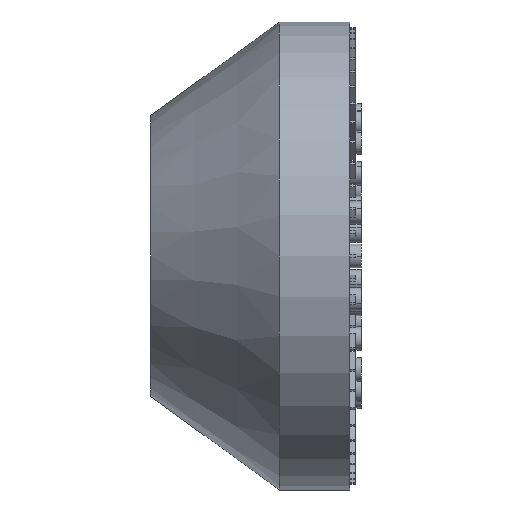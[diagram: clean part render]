
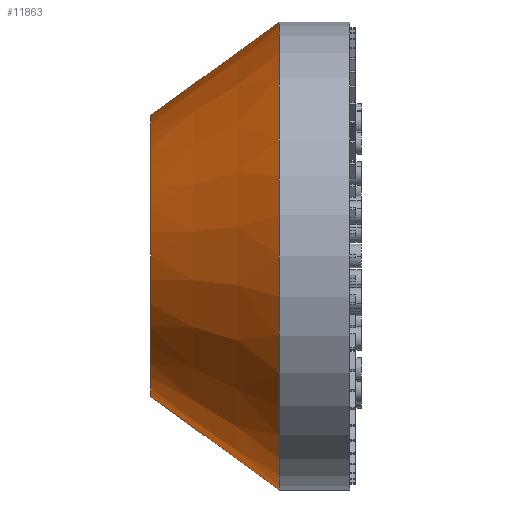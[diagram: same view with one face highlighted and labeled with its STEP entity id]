
A CAD part, left-side view. The second image highlights one B-rep face of the part: STEP entity #11863.
In plain terms, the highlighted conical face has half-angle 36.027 degrees and reference radius 12 mm.
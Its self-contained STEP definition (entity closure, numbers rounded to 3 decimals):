
#194 = VERTEX_POINT ( 'NONE', #11514 ) ;
#365 = AXIS2_PLACEMENT_3D ( 'NONE', #741, #8148, #9081 ) ;
#485 = AXIS2_PLACEMENT_3D ( 'NONE', #9560, #4016, #10503 ) ;
#542 = EDGE_CURVE ( 'NONE', #6759, #194, #4906, .T. ) ;
#741 = CARTESIAN_POINT ( 'NONE',  ( 0., 17., 0. ) ) ;
#945 = AXIS2_PLACEMENT_3D ( 'NONE', #9365, #3816, #10296 ) ;
#985 = EDGE_CURVE ( 'NONE', #6759, #2001, #6863, .T. ) ;
#997 = EDGE_LOOP ( 'NONE', ( #2366, #7316, #5328, #2550 ) ) ;
#1747 = VECTOR ( 'NONE', #3210, 1000. ) ;
#1958 = VECTOR ( 'NONE', #3925, 1000. ) ;
#2001 = VERTEX_POINT ( 'NONE', #9477 ) ;
#2366 = ORIENTED_EDGE ( 'NONE', *, *, #11658, .F. ) ;
#2550 = ORIENTED_EDGE ( 'NONE', *, *, #3116, .F. ) ;
#3116 = EDGE_CURVE ( 'NONE', #11316, #2001, #6798, .T. ) ;
#3210 = DIRECTION ( 'NONE',  ( 0., -0.809, 0.588 ) ) ;
#3586 = CARTESIAN_POINT ( 'NONE',  ( 0., 6., 20. ) ) ;
#3816 = DIRECTION ( 'NONE',  ( 0., 1., 0. ) ) ;
#3900 = LINE ( 'NONE', #8765, #1747 ) ;
#3925 = DIRECTION ( 'NONE',  ( 0., -0.809, -0.588 ) ) ;
#4016 = DIRECTION ( 'NONE',  ( 0., -1., 0. ) ) ;
#4037 = FACE_OUTER_BOUND ( 'NONE', #997, .T. ) ;
#4803 = CARTESIAN_POINT ( 'NONE',  ( 0., 17., -12. ) ) ;
#4906 = CIRCLE ( 'NONE', #945, 12. ) ;
#5328 = ORIENTED_EDGE ( 'NONE', *, *, #985, .T. ) ;
#5917 = CONICAL_SURFACE ( 'NONE', #365, 12., 0.629 ) ;
#6759 = VERTEX_POINT ( 'NONE', #7699 ) ;
#6798 = CIRCLE ( 'NONE', #485, 20. ) ;
#6863 = LINE ( 'NONE', #4803, #1958 ) ;
#7316 = ORIENTED_EDGE ( 'NONE', *, *, #542, .F. ) ;
#7699 = CARTESIAN_POINT ( 'NONE',  ( 0., 17., -12. ) ) ;
#8148 = DIRECTION ( 'NONE',  ( 0., -1., 0. ) ) ;
#8765 = CARTESIAN_POINT ( 'NONE',  ( 0., 17., 12. ) ) ;
#9081 = DIRECTION ( 'NONE',  ( 0., 0., -1. ) ) ;
#9365 = CARTESIAN_POINT ( 'NONE',  ( 0., 17., 0. ) ) ;
#9477 = CARTESIAN_POINT ( 'NONE',  ( 0., 6., -20. ) ) ;
#9560 = CARTESIAN_POINT ( 'NONE',  ( 0., 6., 0. ) ) ;
#10296 = DIRECTION ( 'NONE',  ( 0., 0., 1. ) ) ;
#10503 = DIRECTION ( 'NONE',  ( 0., 0., 1. ) ) ;
#11316 = VERTEX_POINT ( 'NONE', #3586 ) ;
#11514 = CARTESIAN_POINT ( 'NONE',  ( 0., 17., 12. ) ) ;
#11658 = EDGE_CURVE ( 'NONE', #194, #11316, #3900, .T. ) ;
#11863 = ADVANCED_FACE ( 'NONE', ( #4037 ), #5917, .T. ) ;
